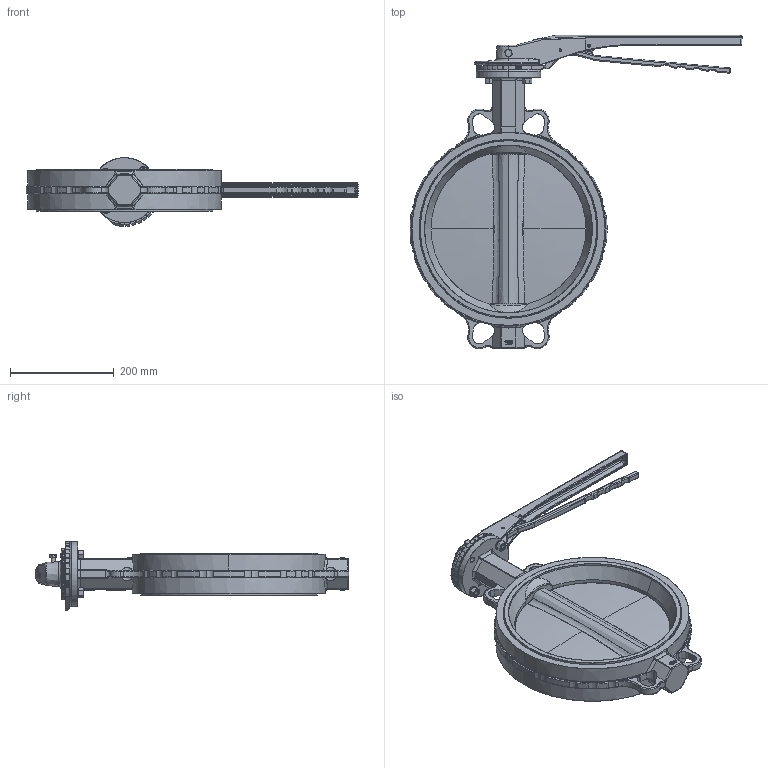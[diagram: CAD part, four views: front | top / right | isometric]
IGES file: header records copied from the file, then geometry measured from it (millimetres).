
Start section: SolidWorks IGES file using analytic representation for surfaces
Global section: file name: H:\BE BIBLIOTHEQUE 3D\Projet_Biblio3D_2016\FSK\VPE\VPE-02\DN300\VPE-02 DN300.IGS; native system: SolidWorks 2014; preprocessor: SolidWorks 2014; author: c.maitre; date: 160929.100115; units: millimetre
Bounding box: 639.8 x 604.44 x 132.46 mm (x, y, z)
Surface area: 703924.1 mm2 (no closed solid volume)
Topology: 0 solids, 0 shells, 1673 faces, 23120 edges, 23047 vertices
Faces by surface type: bspline 993, revolution 680
